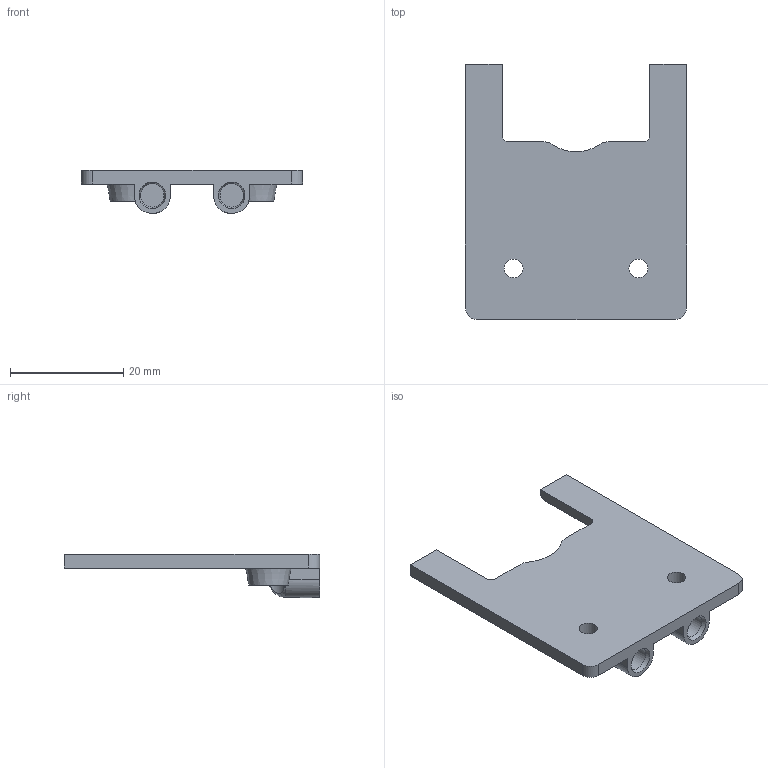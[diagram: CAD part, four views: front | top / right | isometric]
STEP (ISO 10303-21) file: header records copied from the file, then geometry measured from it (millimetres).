
FILE_DESCRIPTION(/* description */ (''),/* implementation_level */ '2;1');
FILE_NAME(/* name */ 'HMG7-Phaetus-Dragonfly-BMS-Skirt.step',/* time_stamp */ '2022-11-01T21:55:04-07:00',/* author */ (''),/* organization */ (''),/* preprocessor_version */ 'ST-DEVELOPER v19.2',/* originating_system */ 'Autodesk Translation Framework v11.17.0.187',/* authorisation */ '');
FILE_SCHEMA (('AUTOMOTIVE_DESIGN { 1 0 10303 214 3 1 1 }'));
Length unit declared in the file: millimetre
Products named in the file (4): GEN_7_1.5; Dragonfly_BMS; BMS_Mount_Plate; BMS_Skirt
Assembly tree (3 placements, depth 3):
  GEN_7_1.5
    Dragonfly_BMS
      BMS_Mount_Plate
      BMS_Skirt
Bounding box: 39 x 45.03 x 7.6 mm (x, y, z)
Volume: 3676.8 mm3; surface area: 3764.8 mm2
Topology: 1 solids, 1 shells, 60 faces, 156 edges, 100 vertices
Faces by surface type: plane 34, cylinder 17, cone 7, bspline 2
Full cylindrical faces by diameter (mm): 3.3 x2, 4.15 x2, 6 x2
Entity records: 2025 total; most frequent: CARTESIAN_POINT 435, DIRECTION 317, ORIENTED_EDGE 312, EDGE_CURVE 156, AXIS2_PLACEMENT_3D 110, VERTEX_POINT 100, LINE 97, VECTOR 97
